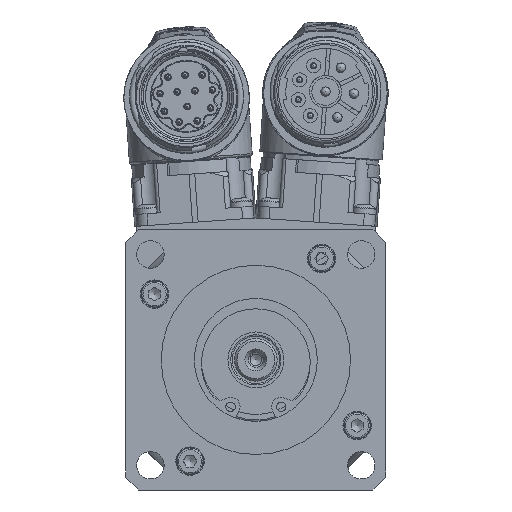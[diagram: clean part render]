
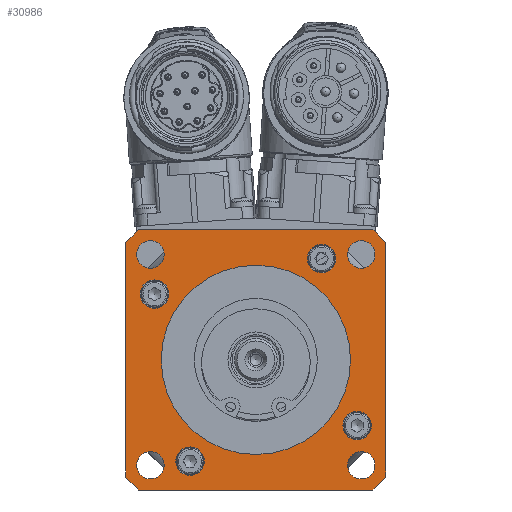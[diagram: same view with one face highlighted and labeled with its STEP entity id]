
A CAD part, left-side view. The second image highlights one B-rep face of the part: STEP entity #30986.
In plain terms, the highlighted planar face has unit normal (-1, 0, 0).
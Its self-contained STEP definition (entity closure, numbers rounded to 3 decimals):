
#1431=FACE_BOUND('',#4002,.T.);
#1432=FACE_BOUND('',#4003,.T.);
#1433=FACE_BOUND('',#4004,.T.);
#1434=FACE_BOUND('',#4005,.T.);
#1435=FACE_BOUND('',#4006,.T.);
#1436=FACE_BOUND('',#4007,.T.);
#1437=FACE_BOUND('',#4008,.T.);
#1438=FACE_BOUND('',#4009,.T.);
#1439=FACE_BOUND('',#4010,.T.);
#1666=PLANE('',#33130);
#2207=FACE_OUTER_BOUND('',#4001,.T.);
#4001=EDGE_LOOP('',(#19493,#19494,#19495,#19496,#19497,#19498,#19499,#19500));
#4002=EDGE_LOOP('',(#19501));
#4003=EDGE_LOOP('',(#19502));
#4004=EDGE_LOOP('',(#19503));
#4005=EDGE_LOOP('',(#19504));
#4006=EDGE_LOOP('',(#19505));
#4007=EDGE_LOOP('',(#19506));
#4008=EDGE_LOOP('',(#19507));
#4009=EDGE_LOOP('',(#19508));
#4010=EDGE_LOOP('',(#19509,#19510));
#6203=CIRCLE('',#33128,20.);
#6204=CIRCLE('',#33129,20.);
#6205=CIRCLE('',#33131,37.);
#6206=CIRCLE('',#33132,37.);
#6207=CIRCLE('',#33133,37.);
#6208=CIRCLE('',#33134,37.);
#6209=CIRCLE('',#33135,3.);
#6210=CIRCLE('',#33136,3.);
#6211=CIRCLE('',#33137,3.);
#6212=CIRCLE('',#33138,3.);
#6213=CIRCLE('',#33139,2.9);
#6214=CIRCLE('',#33140,2.9);
#6215=CIRCLE('',#33141,2.9);
#6216=CIRCLE('',#33142,2.9);
#8261=LINE('',#46579,#9824);
#8262=LINE('',#46583,#9825);
#8263=LINE('',#46587,#9826);
#8264=LINE('',#46591,#9827);
#9824=VECTOR('',#37318,10.);
#9825=VECTOR('',#37321,10.);
#9826=VECTOR('',#37324,10.);
#9827=VECTOR('',#37327,10.);
#11473=VERTEX_POINT('',#46571);
#11474=VERTEX_POINT('',#46572);
#11475=VERTEX_POINT('',#46577);
#11476=VERTEX_POINT('',#46578);
#11477=VERTEX_POINT('',#46580);
#11478=VERTEX_POINT('',#46582);
#11479=VERTEX_POINT('',#46584);
#11480=VERTEX_POINT('',#46586);
#11481=VERTEX_POINT('',#46588);
#11482=VERTEX_POINT('',#46590);
#11483=VERTEX_POINT('',#46593);
#11484=VERTEX_POINT('',#46595);
#11485=VERTEX_POINT('',#46597);
#11486=VERTEX_POINT('',#46599);
#11487=VERTEX_POINT('',#46601);
#11488=VERTEX_POINT('',#46603);
#11489=VERTEX_POINT('',#46605);
#11490=VERTEX_POINT('',#46607);
#14565=EDGE_CURVE('',#11473,#11474,#6203,.T.);
#14567=EDGE_CURVE('',#11474,#11473,#6204,.T.);
#14568=EDGE_CURVE('',#11475,#11476,#8261,.T.);
#14569=EDGE_CURVE('',#11477,#11475,#6205,.T.);
#14570=EDGE_CURVE('',#11478,#11477,#8262,.T.);
#14571=EDGE_CURVE('',#11479,#11478,#6206,.T.);
#14572=EDGE_CURVE('',#11480,#11479,#8263,.T.);
#14573=EDGE_CURVE('',#11481,#11480,#6207,.T.);
#14574=EDGE_CURVE('',#11482,#11481,#8264,.T.);
#14575=EDGE_CURVE('',#11476,#11482,#6208,.T.);
#14576=EDGE_CURVE('',#11483,#11483,#6209,.T.);
#14577=EDGE_CURVE('',#11484,#11484,#6210,.T.);
#14578=EDGE_CURVE('',#11485,#11485,#6211,.T.);
#14579=EDGE_CURVE('',#11486,#11486,#6212,.T.);
#14580=EDGE_CURVE('',#11487,#11487,#6213,.T.);
#14581=EDGE_CURVE('',#11488,#11488,#6214,.T.);
#14582=EDGE_CURVE('',#11489,#11489,#6215,.T.);
#14583=EDGE_CURVE('',#11490,#11490,#6216,.T.);
#19493=ORIENTED_EDGE('',*,*,#14568,.F.);
#19494=ORIENTED_EDGE('',*,*,#14569,.F.);
#19495=ORIENTED_EDGE('',*,*,#14570,.F.);
#19496=ORIENTED_EDGE('',*,*,#14571,.F.);
#19497=ORIENTED_EDGE('',*,*,#14572,.F.);
#19498=ORIENTED_EDGE('',*,*,#14573,.F.);
#19499=ORIENTED_EDGE('',*,*,#14574,.F.);
#19500=ORIENTED_EDGE('',*,*,#14575,.F.);
#19501=ORIENTED_EDGE('',*,*,#14576,.F.);
#19502=ORIENTED_EDGE('',*,*,#14577,.F.);
#19503=ORIENTED_EDGE('',*,*,#14578,.F.);
#19504=ORIENTED_EDGE('',*,*,#14579,.F.);
#19505=ORIENTED_EDGE('',*,*,#14580,.F.);
#19506=ORIENTED_EDGE('',*,*,#14581,.F.);
#19507=ORIENTED_EDGE('',*,*,#14582,.F.);
#19508=ORIENTED_EDGE('',*,*,#14583,.F.);
#19509=ORIENTED_EDGE('',*,*,#14565,.F.);
#19510=ORIENTED_EDGE('',*,*,#14567,.F.);
#30986=ADVANCED_FACE('',(#2207,#1431,#1432,#1433,#1434,#1435,#1436,#1437,
#1438,#1439),#1666,.F.);
#33128=AXIS2_PLACEMENT_3D('',#46573,#37311,#37312);
#33129=AXIS2_PLACEMENT_3D('',#46575,#37314,#37315);
#33130=AXIS2_PLACEMENT_3D('',#46576,#37316,#37317);
#33131=AXIS2_PLACEMENT_3D('',#46581,#37319,#37320);
#33132=AXIS2_PLACEMENT_3D('',#46585,#37322,#37323);
#33133=AXIS2_PLACEMENT_3D('',#46589,#37325,#37326);
#33134=AXIS2_PLACEMENT_3D('',#46592,#37328,#37329);
#33135=AXIS2_PLACEMENT_3D('',#46594,#37330,#37331);
#33136=AXIS2_PLACEMENT_3D('',#46596,#37332,#37333);
#33137=AXIS2_PLACEMENT_3D('',#46598,#37334,#37335);
#33138=AXIS2_PLACEMENT_3D('',#46600,#37336,#37337);
#33139=AXIS2_PLACEMENT_3D('',#46602,#37338,#37339);
#33140=AXIS2_PLACEMENT_3D('',#46604,#37340,#37341);
#33141=AXIS2_PLACEMENT_3D('',#46606,#37342,#37343);
#33142=AXIS2_PLACEMENT_3D('',#46608,#37344,#37345);
#37311=DIRECTION('center_axis',(-1.,0.,0.));
#37312=DIRECTION('ref_axis',(0.,0.,
1.));
#37314=DIRECTION('center_axis',(-1.,0.,0.));
#37315=DIRECTION('ref_axis',(0.,0.,
1.));
#37316=DIRECTION('center_axis',(1.,0.,0.));
#37317=DIRECTION('ref_axis',(0.,0.,
-1.));
#37318=DIRECTION('',(0.,-1.,0.));
#37319=DIRECTION('center_axis',(1.,0.,0.));
#37320=DIRECTION('ref_axis',(0.,0.,
1.));
#37321=DIRECTION('',(0.,0.,1.));
#37322=DIRECTION('center_axis',(1.,0.,0.));
#37323=DIRECTION('ref_axis',(0.,0.,
1.));
#37324=DIRECTION('',(0.,1.,0.));
#37325=DIRECTION('center_axis',(1.,0.,0.));
#37326=DIRECTION('ref_axis',(0.,0.,
1.));
#37327=DIRECTION('',(0.,0.,-1.));
#37328=DIRECTION('center_axis',(1.,0.,0.));
#37329=DIRECTION('ref_axis',(0.,0.,
1.));
#37330=DIRECTION('center_axis',(-1.,0.,0.));
#37331=DIRECTION('ref_axis',(0.,0.,
1.));
#37332=DIRECTION('center_axis',(-1.,0.,0.));
#37333=DIRECTION('ref_axis',(0.,1.,0.));
#37334=DIRECTION('center_axis',(-1.,0.,0.));
#37335=DIRECTION('ref_axis',(0.,0.,
-1.));
#37336=DIRECTION('center_axis',(-1.,0.,0.));
#37337=DIRECTION('ref_axis',(0.,-1.,0.));
#37338=DIRECTION('center_axis',(-1.,0.,0.));
#37339=DIRECTION('ref_axis',(0.,0.,
1.));
#37340=DIRECTION('center_axis',(-1.,0.,0.));
#37341=DIRECTION('ref_axis',(0.,1.,0.));
#37342=DIRECTION('center_axis',(-1.,0.,0.));
#37343=DIRECTION('ref_axis',(0.,0.,
-1.));
#37344=DIRECTION('center_axis',(-1.,0.,0.));
#37345=DIRECTION('ref_axis',(0.,-1.,0.));
#46571=CARTESIAN_POINT('',(-24.75,0.,20.));
#46572=CARTESIAN_POINT('',(-24.75,0.,-20.));
#46573=CARTESIAN_POINT('Origin',(-24.75,0.,0.));
#46575=CARTESIAN_POINT('Origin',(-24.75,0.,0.));
#46576=CARTESIAN_POINT('Origin',(-24.75,0.,49.909));
#46577=CARTESIAN_POINT('',(-24.75,24.754,27.5));
#46578=CARTESIAN_POINT('',(-24.75,-24.754,27.5));
#46579=CARTESIAN_POINT('',(-24.75,13.75,27.5));
#46580=CARTESIAN_POINT('',(-24.75,27.5,24.754));
#46581=CARTESIAN_POINT('Origin',(-24.75,0.,0.));
#46582=CARTESIAN_POINT('',(-24.75,27.5,-24.754));
#46583=CARTESIAN_POINT('',(-24.75,27.5,11.204));
#46584=CARTESIAN_POINT('',(-24.75,24.754,-27.5));
#46585=CARTESIAN_POINT('Origin',(-24.75,0.,0.));
#46586=CARTESIAN_POINT('',(-24.75,-24.754,-27.5));
#46587=CARTESIAN_POINT('',(-24.75,-13.75,-27.5));
#46588=CARTESIAN_POINT('',(-24.75,-27.5,-24.754));
#46589=CARTESIAN_POINT('Origin',(-24.75,0.,0.));
#46590=CARTESIAN_POINT('',(-24.75,-27.5,24.754));
#46591=CARTESIAN_POINT('',(-24.75,-27.5,38.704));
#46592=CARTESIAN_POINT('Origin',(-24.75,0.,0.));
#46593=CARTESIAN_POINT('',(-24.75,21.4,10.9));
#46594=CARTESIAN_POINT('Origin',(-24.75,21.4,13.9));
#46595=CARTESIAN_POINT('',(-24.75,10.9,-21.4));
#46596=CARTESIAN_POINT('Origin',(-24.75,13.9,-21.4));
#46597=CARTESIAN_POINT('',(-24.75,-21.4,-10.9));
#46598=CARTESIAN_POINT('Origin',(-24.75,-21.4,-13.9));
#46599=CARTESIAN_POINT('',(-24.75,-10.9,21.4));
#46600=CARTESIAN_POINT('Origin',(-24.75,-13.9,21.4));
#46601=CARTESIAN_POINT('',(-24.75,22.274,-25.174));
#46602=CARTESIAN_POINT('Origin',(-24.75,22.274,-22.274));
#46603=CARTESIAN_POINT('',(-24.75,-25.174,-22.274));
#46604=CARTESIAN_POINT('Origin',(-24.75,-22.274,-22.274));
#46605=CARTESIAN_POINT('',(-24.75,-22.274,25.174));
#46606=CARTESIAN_POINT('Origin',(-24.75,-22.274,22.274));
#46607=CARTESIAN_POINT('',(-24.75,25.174,22.274));
#46608=CARTESIAN_POINT('Origin',(-24.75,22.274,22.274));
